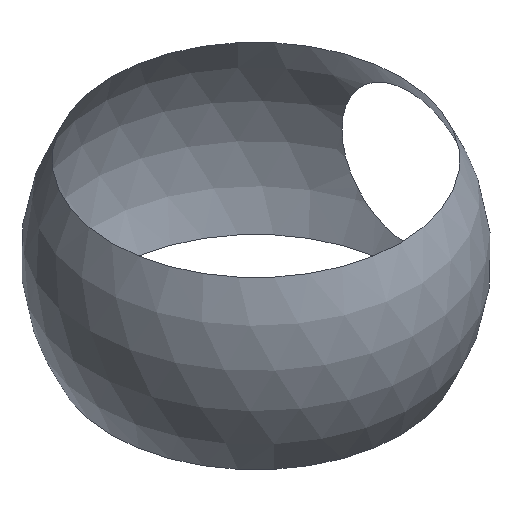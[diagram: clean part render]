
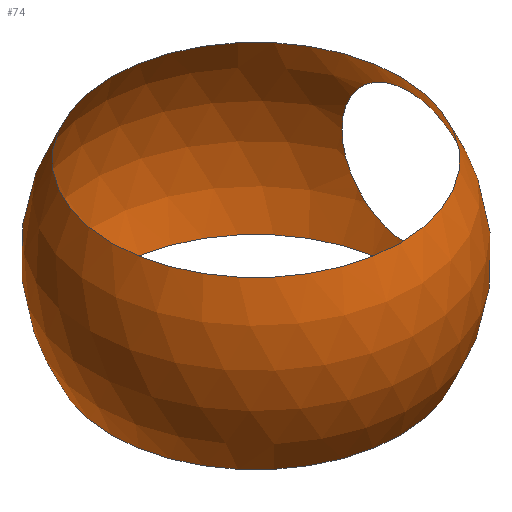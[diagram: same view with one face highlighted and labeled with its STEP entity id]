
A CAD part, isometric view. The second image highlights one B-rep face of the part: STEP entity #74.
In plain terms, the highlighted spherical face has radius 10 mm.
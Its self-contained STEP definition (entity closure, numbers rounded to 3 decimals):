
#1=CARTESIAN_POINT('',(0.,0.,0.));
#2=CARTESIAN_POINT('',(0.,0.,-5.));
#3=CARTESIAN_POINT('',(0.,0.,5.));
#4=CARTESIAN_POINT('',(9.165,0.,0.));
#5=CARTESIAN_POINT('',(8.66,0.,-5.));
#6=CARTESIAN_POINT('',(8.66,0.,5.));
#7=CARTESIAN_POINT('',(9.165,4.,0.));
#10=DIRECTION('',(0.,0.,1.));
#11=DIRECTION('',(1.,0.,0.));
#12=DIRECTION('',(0.,1.,0.));
#13=AXIS2_PLACEMENT_3D('',#1,#10,#11);
#14=AXIS2_PLACEMENT_3D('',#2,#10,#11);
#15=AXIS2_PLACEMENT_3D('',#3,#10,#11);
#16=AXIS2_PLACEMENT_3D('',#4,#11,#12);
#20=VERTEX_POINT('',#5);
#21=VERTEX_POINT('',#6);
#22=VERTEX_POINT('',#7);
#30=CIRCLE('',#14,8.66);
#31=CIRCLE('',#15,8.66);
#32=CIRCLE('',#16,4.);
#40=EDGE_CURVE('',#20,#20,#30,.T.);
#41=EDGE_CURVE('',#21,#21,#31,.T.);
#42=EDGE_CURVE('',#22,#22,#32,.T.);
#50=ORIENTED_EDGE('',*,*,#40,.T.);
#51=ORIENTED_EDGE('',*,*,#41,.F.);
#52=ORIENTED_EDGE('',*,*,#42,.F.);
#60=EDGE_LOOP('',(#50));
#61=EDGE_LOOP('',(#51));
#62=EDGE_LOOP('',(#52));
#70=FACE_OUTER_BOUND('',#60,.T.);
#71=FACE_BOUND('',#61,.T.);
#72=FACE_BOUND('',#62,.T.);
#73=SPHERICAL_SURFACE('',#13,10.);
#74=ADVANCED_FACE('',(#70,#71,#72),#73,.T.);
